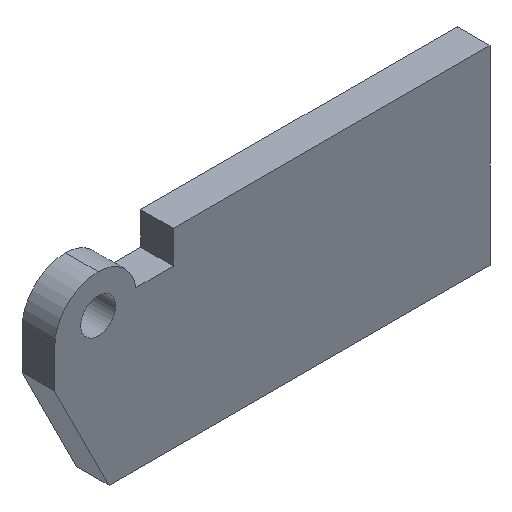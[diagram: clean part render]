
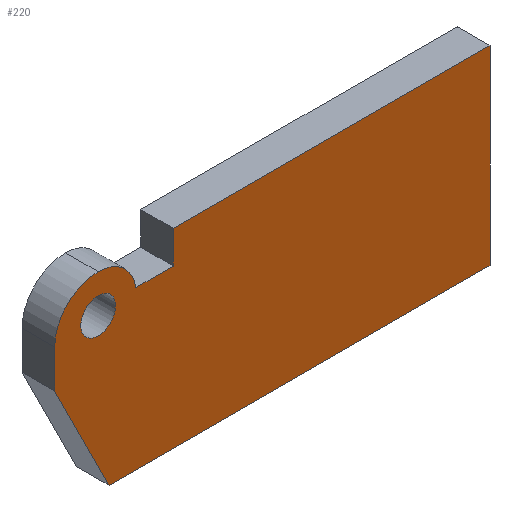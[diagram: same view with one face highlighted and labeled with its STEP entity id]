
A CAD part, isometric view. The second image highlights one B-rep face of the part: STEP entity #220.
In plain terms, the highlighted planar face has unit normal (0, -1, 0).
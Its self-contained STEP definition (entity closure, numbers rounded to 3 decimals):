
#18=FACE_BOUND('',#40,.T.);
#20=CIRCLE('',#247,3.5);
#21=CIRCLE('',#248,4.);
#22=CIRCLE('',#249,1.6);
#27=FACE_OUTER_BOUND('',#39,.T.);
#39=EDGE_LOOP('',(#154,#155,#156,#157,#158,#159,#160,#161,#162));
#40=EDGE_LOOP('',(#163));
#55=LINE('',#334,#79);
#56=LINE('',#337,#80);
#57=LINE('',#343,#81);
#58=LINE('',#345,#82);
#59=LINE('',#347,#83);
#60=LINE('',#349,#84);
#61=LINE('',#350,#85);
#79=VECTOR('',#270,10.);
#80=VECTOR('',#273,10.);
#81=VECTOR('',#278,10.);
#82=VECTOR('',#279,10.);
#83=VECTOR('',#280,10.);
#84=VECTOR('',#281,10.);
#85=VECTOR('',#282,10.);
#101=VERTEX_POINT('',#328);
#103=VERTEX_POINT('',#332);
#104=VERTEX_POINT('',#336);
#105=VERTEX_POINT('',#338);
#106=VERTEX_POINT('',#340);
#107=VERTEX_POINT('',#342);
#108=VERTEX_POINT('',#344);
#109=VERTEX_POINT('',#346);
#110=VERTEX_POINT('',#348);
#111=VERTEX_POINT('',#351);
#123=EDGE_CURVE('',#101,#103,#55,.T.);
#124=EDGE_CURVE('',#103,#104,#56,.T.);
#125=EDGE_CURVE('',#104,#105,#20,.T.);
#126=EDGE_CURVE('',#106,#105,#21,.T.);
#127=EDGE_CURVE('',#106,#107,#57,.T.);
#128=EDGE_CURVE('',#108,#107,#58,.T.);
#129=EDGE_CURVE('',#108,#109,#59,.F.);
#130=EDGE_CURVE('',#109,#110,#60,.T.);
#131=EDGE_CURVE('',#110,#101,#61,.T.);
#132=EDGE_CURVE('',#111,#111,#22,.T.);
#154=ORIENTED_EDGE('',*,*,#123,.T.);
#155=ORIENTED_EDGE('',*,*,#124,.T.);
#156=ORIENTED_EDGE('',*,*,#125,.T.);
#157=ORIENTED_EDGE('',*,*,#126,.F.);
#158=ORIENTED_EDGE('',*,*,#127,.T.);
#159=ORIENTED_EDGE('',*,*,#128,.F.);
#160=ORIENTED_EDGE('',*,*,#129,.T.);
#161=ORIENTED_EDGE('',*,*,#130,.T.);
#162=ORIENTED_EDGE('',*,*,#131,.T.);
#163=ORIENTED_EDGE('',*,*,#132,.T.);
#211=PLANE('',#246);
#220=ADVANCED_FACE('',(#27,#18),#211,.T.);
#246=AXIS2_PLACEMENT_3D('',#335,#271,#272);
#247=AXIS2_PLACEMENT_3D('',#339,#274,#275);
#248=AXIS2_PLACEMENT_3D('',#341,#276,#277);
#249=AXIS2_PLACEMENT_3D('',#352,#283,#284);
#270=DIRECTION('',(0.,0.,-1.));
#271=DIRECTION('center_axis',(0.,-1.,0.));
#272=DIRECTION('ref_axis',(0.,0.,-1.));
#273=DIRECTION('',(-1.,0.,0.));
#274=DIRECTION('center_axis',(0.,-1.,0.));
#275=DIRECTION('ref_axis',(1.,0.,0.));
#276=DIRECTION('center_axis',(0.,1.,0.));
#277=DIRECTION('ref_axis',(-0.707,0.,0.707));
#278=DIRECTION('',(0.,0.,-1.));
#279=DIRECTION('',(-0.447,0.,0.894));
#280=DIRECTION('',(-1.,0.,0.));
#281=DIRECTION('',(0.,0.,1.));
#282=DIRECTION('',(-1.,0.,0.));
#283=DIRECTION('center_axis',(0.,1.,0.));
#284=DIRECTION('ref_axis',(1.,0.,0.));
#328=CARTESIAN_POINT('',(-22.674,-176.1,63.584));
#332=CARTESIAN_POINT('',(-22.674,-176.1,60.584));
#334=CARTESIAN_POINT('',(-22.674,-176.1,59.209));
#335=CARTESIAN_POINT('Origin',(-13.573,-176.1,57.334));
#336=CARTESIAN_POINT('',(-26.109,-176.1,60.584));
#337=CARTESIAN_POINT('',(-18.374,-176.1,60.584));
#338=CARTESIAN_POINT('',(-29.573,-176.1,63.584));
#339=CARTESIAN_POINT('Origin',(-29.573,-176.1,60.084));
#340=CARTESIAN_POINT('',(-33.573,-176.1,59.584));
#341=CARTESIAN_POINT('Origin',(-29.573,-176.1,59.584));
#342=CARTESIAN_POINT('',(-33.573,-176.1,56.084));
#343=CARTESIAN_POINT('',(-33.573,-176.1,63.584));
#344=CARTESIAN_POINT('',(-28.573,-176.1,46.084));
#345=CARTESIAN_POINT('',(-30.573,-176.1,50.084));
#346=CARTESIAN_POINT('',(6.427,-176.1,46.084));
#347=CARTESIAN_POINT('',(-23.573,-176.1,46.084));
#348=CARTESIAN_POINT('',(6.427,-176.1,63.584));
#349=CARTESIAN_POINT('',(6.427,-176.1,51.084));
#350=CARTESIAN_POINT('',(6.427,-176.1,63.584));
#351=CARTESIAN_POINT('',(-31.173,-176.1,60.084));
#352=CARTESIAN_POINT('Origin',(-29.573,-176.1,60.084));
